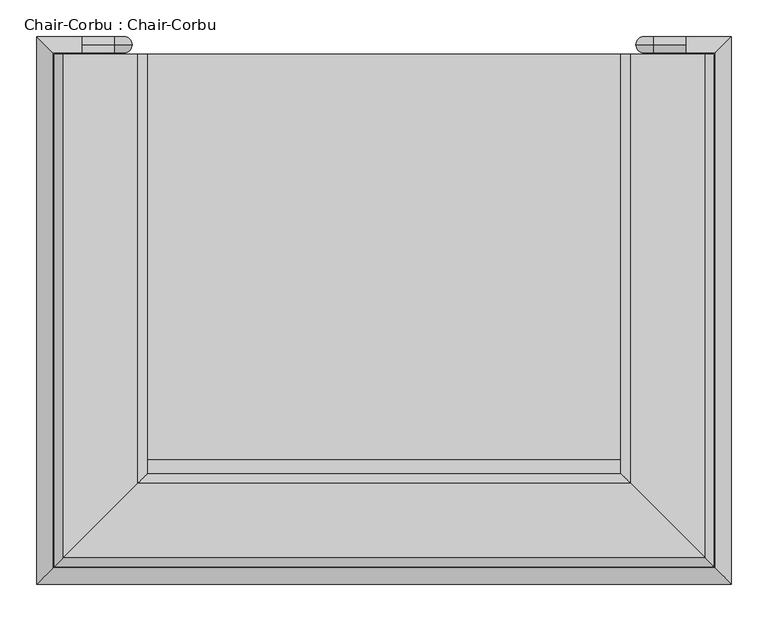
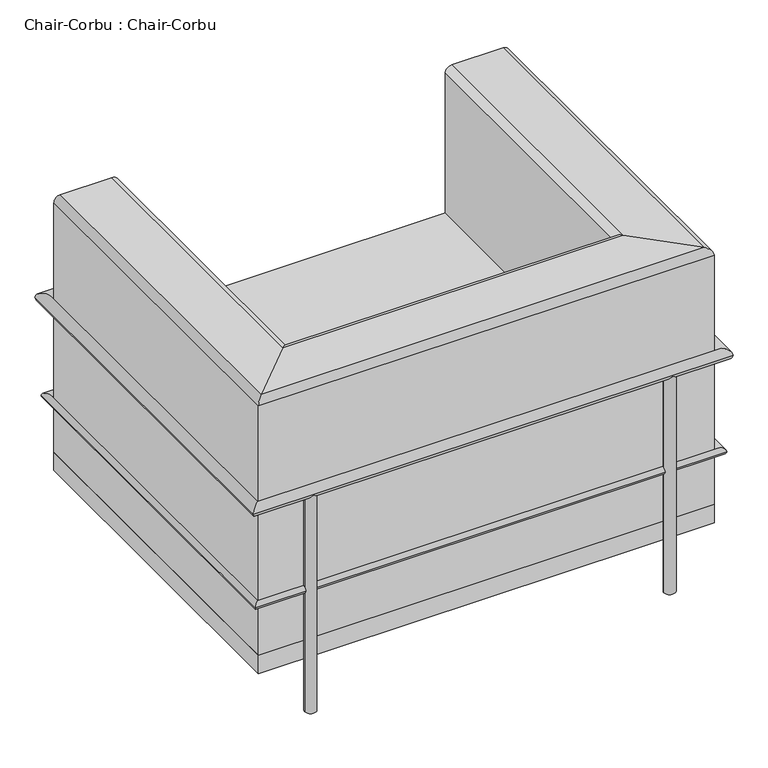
"""IFC4 building model written with IfcOpenShell, lengths in millimetres: furniture geometry, Chair-Corbu : Chair-Corbu."""

from ifc_helpers import new_model, si_unit, point, frame, frame_2d, origin, origin_with_axes, place, context, project, spatial, polyline, circle_curve, ellipse_curve, trimmed, segment, composite_curve, outline, extrude, source, transform, mapped, element, save
from ifc_brep_helpers import plane_surface, cylinder_surface, revolved_surface, advanced_brep


def chair_corbu_chair_corbu_44360336(model_context):
    return source(origin(), model_context, "Body", "SolidModel", [
        advanced_brep(
        [(123.3737705, -116.7770492, 139.7), (123.3737705, -116.7770492, 660.4), (136.0737705, -116.7770492, 673.1), (237.6737705, -116.7770492, 673.1), (250.3737705, -116.7770492, 660.4), (250.3737705, -116.7770492, 139.7), (250.3737705, -689.7770492, 139.7), (123.3737705, -816.7770492, 139.7), (250.3737705, -689.7770492, 660.4), (237.6737705, -702.4770492, 673.1), (136.0737705, -804.0770492, 673.1), (123.3737705, -816.7770492, 660.4), (896.3737705, -689.7770492, 139.7), (1023.3737705, -816.7770492, 139.7), (896.3737705, -689.7770492, 660.4), (909.0737705, -702.4770492, 673.1), (1010.6737705, -804.0770492, 673.1), (1023.3737705, -816.7770492, 660.4), (1023.3737705, -116.7770492, 139.7), (896.3737705, -116.7770492, 139.7), (896.3737705, -116.7770492, 660.4), (909.0737705, -116.7770492, 673.1), (1010.6737705, -116.7770492, 673.1), (1023.3737705, -116.7770492, 660.4)],
        [
            (0, 1),
            (1, 2, circle_curve(frame((136.0737705, -116.7770492, 660.4), z_axis=(0.0, 1.0, 0.0), x_axis=(-1.0, 0.0, 0.0)), 12.7)),
            (2, 3),
            (3, 4, circle_curve(frame((237.6737705, -116.7770492, 660.4), z_axis=(0.0, 1.0, 0.0), x_axis=(-1.0, 0.0, 0.0)), 12.7)),
            (4, 5),
            (5, 0),
            (5, 6),
            (6, 7),
            (7, 0),
            (4, 8),
            (8, 6),
            (3, 9),
            (9, 8, ellipse_curve(frame((237.6737705, -702.4770492, 660.4), z_axis=(-0.7071067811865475, 0.7071067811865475, 0.0), x_axis=(0.7071067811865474, 0.7071067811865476, 0.0)), 17.9605122, 12.7)),
            (2, 10),
            (10, 9),
            (1, 11),
            (11, 10, ellipse_curve(frame((136.0737705, -804.0770492, 660.4), z_axis=(-0.7071067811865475, 0.7071067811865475, 0.0), x_axis=(0.7071067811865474, 0.7071067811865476, 0.0)), 17.9605122, 12.7)),
            (7, 11),
            (6, 12),
            (12, 13),
            (13, 7),
            (8, 14),
            (14, 12),
            (9, 15),
            (15, 14, ellipse_curve(frame((909.0737705, -702.4770492, 660.4), z_axis=(-0.7071067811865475, -0.7071067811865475, 0.0), x_axis=(-0.7071067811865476, 0.7071067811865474, 0.0)), 17.9605122, 12.7)),
            (10, 16),
            (16, 15),
            (11, 17),
            (17, 16, ellipse_curve(frame((1010.6737705, -804.0770492, 660.4), z_axis=(-0.7071067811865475, -0.7071067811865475, 0.0), x_axis=(-0.7071067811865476, 0.7071067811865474, 0.0)), 17.9605122, 12.7)),
            (13, 17),
            (18, 19),
            (19, 20),
            (20, 21, circle_curve(frame((909.0737705, -116.7770492, 660.4), z_axis=(0.0, 1.0, 0.0), x_axis=(1.0, 0.0, 0.0)), 12.7)),
            (21, 22),
            (22, 23, circle_curve(frame((1010.6737705, -116.7770492, 660.4), z_axis=(0.0, 1.0, 0.0), x_axis=(1.0, 0.0, 0.0)), 12.7)),
            (23, 18),
            (12, 19),
            (18, 13),
            (14, 20),
            (15, 21),
            (16, 22),
            (17, 23),
        ],
        [
            plane_surface(frame((-559.3619763, -116.7770492, 0.0), z_axis=(0.0, 1.0, 0.0), x_axis=(0.0, 0.0, 1.0))),
            plane_surface(frame((123.3737705, -116.7770492, 139.7), z_axis=(0.0, 0.0, -1.0), x_axis=(0.0, -1.0, 0.0))),
            plane_surface(frame((250.3737705, -116.7770492, 139.7), z_axis=(1.0, 0.0, 0.0), x_axis=(0.0, -1.0, 0.0))),
            cylinder_surface(frame((237.6737705, -116.7770492, 660.4), z_axis=(0.0, 1.0, 0.0), x_axis=(-1.0, 0.0, 0.0)), 12.7),
            plane_surface(frame((237.6737705, -116.7770492, 673.1), z_axis=(0.0, 0.0, 1.0), x_axis=(0.0, -1.0, 0.0))),
            cylinder_surface(frame((136.0737705, -116.7770492, 660.4), z_axis=(0.0, 1.0, 0.0), x_axis=(-1.0, 0.0, 0.0)), 12.7),
            plane_surface(frame((123.3737705, -116.7770492, 660.4), z_axis=(-1.0, 0.0, 0.0), x_axis=(0.0, -1.0, 0.0))),
            plane_surface(frame((123.3737705, -816.7770492, 139.7), z_axis=(0.0, 0.0, -1.0), x_axis=(1.0, 0.0, 0.0))),
            plane_surface(frame((250.3737705, -689.7770492, 139.7), z_axis=(0.0, 1.0, 0.0), x_axis=(1.0, 0.0, 0.0))),
            cylinder_surface(frame((123.3737705, -702.4770492, 660.4), z_axis=(-1.0, 0.0, 0.0), x_axis=(0.0, -1.0, 0.0)), 12.7),
            plane_surface(frame((237.6737705, -702.4770492, 673.1), z_axis=(0.0, 0.0, 1.0), x_axis=(1.0, 0.0, 0.0))),
            cylinder_surface(frame((123.3737705, -804.0770492, 660.4), z_axis=(-1.0, 0.0, 0.0), x_axis=(0.0, -1.0, 0.0)), 12.7),
            plane_surface(frame((123.3737705, -816.7770492, 660.4), z_axis=(0.0, -1.0, 0.0), x_axis=(1.0, 0.0, 0.0))),
            plane_surface(frame((340.6380237, -116.7770492, 0.0), z_axis=(0.0, 1.0, 0.0), x_axis=(0.0, 0.0, -1.0))),
            plane_surface(frame((1023.3737705, -816.7770492, 139.7), z_axis=(0.0, 0.0, -1.0), x_axis=(0.0, 1.0, 0.0))),
            plane_surface(frame((896.3737705, -689.7770492, 139.7), z_axis=(-1.0, 0.0, 0.0), x_axis=(0.0, 1.0, 0.0))),
            cylinder_surface(frame((909.0737705, -816.7770492, 660.4), z_axis=(0.0, -1.0, 0.0), x_axis=(1.0, 0.0, 0.0)), 12.7),
            plane_surface(frame((909.0737705, -702.4770492, 673.1), z_axis=(0.0, 0.0, 1.0), x_axis=(0.0, 1.0, 0.0))),
            cylinder_surface(frame((1010.6737705, -816.7770492, 660.4), z_axis=(0.0, -1.0, 0.0), x_axis=(1.0, 0.0, 0.0)), 12.7),
            plane_surface(frame((1023.3737705, -816.7770492, 660.4), z_axis=(1.0, 0.0, 0.0), x_axis=(0.0, 1.0, 0.0))),
        ],
        [
            (0, [[1, 2, 3, 4, 5, 6]]),
            (1, [[7, 8, 9, -6]]),
            (2, [[10, 11, -7, -5]]),
            (3, [[12, 13, -10, -4]]),
            (4, [[14, 15, -12, -3]]),
            (5, [[16, 17, -14, -2]]),
            (6, [[-9, 18, -16, -1]]),
            (7, [[19, 20, 21, -8]]),
            (8, [[22, 23, -19, -11]]),
            (9, [[24, 25, -22, -13]]),
            (10, [[26, 27, -24, -15]]),
            (11, [[28, 29, -26, -17]]),
            (12, [[-21, 30, -28, -18]]),
            (13, [[31, 32, 33, 34, 35, 36]]),
            (14, [[37, -31, 38, -20]]),
            (15, [[39, -32, -37, -23]]),
            (16, [[40, -33, -39, -25]]),
            (17, [[41, -34, -40, -27]]),
            (18, [[42, -35, -41, -29]]),
            (19, [[-38, -36, -42, -30]]),
        ],
    ),
        advanced_brep(
        [(939.2362705, -104.0770492, 0.0), (917.0112705, -104.0770492, 0.0), (917.0112705, -104.0770492, 444.5), (939.2362705, -104.0770492, 444.5), (940.8237705, -104.0770492, 468.3125), (940.8237705, -104.0770492, 446.0875), (985.2737705, -104.0770492, 446.0875), (985.2737705, -104.0770492, 468.3125)],
        [
            (0, 1, circle_curve(frame((928.1237705, -104.0770492, 0.0), z_axis=(0.0, 0.0, -1.0), x_axis=(-1.0, 0.0, 0.0)), 11.1125)),
            (1, 0, circle_curve(frame((928.1237705, -104.0770492, 0.0), z_axis=(0.0, 0.0, -1.0), x_axis=(-1.0, 0.0, 0.0)), 11.1125)),
            (1, 2),
            (2, 3, circle_curve(frame((928.1237705, -104.0770492, 444.5), z_axis=(0.0, 0.0, -1.0), x_axis=(-1.0, 0.0, 0.0)), 11.1125)),
            (3, 0),
            (3, 2, circle_curve(frame((928.1237705, -104.0770492, 444.5), z_axis=(0.0, 0.0, -1.0), x_axis=(-1.0, 0.0, 0.0)), 11.1125)),
            (4, 5, circle_curve(frame((940.8237705, -104.0770492, 457.2), z_axis=(-1.0, 0.0, 0.0), x_axis=(0.0, 0.0, 1.0)), 11.1125)),
            (5, 3, circle_curve(frame((940.8237705, -104.0770492, 444.5), z_axis=(0.0, -1.0, 0.0), x_axis=(-1.0, 0.0, 0.0)), 1.5875)),
            (2, 4, circle_curve(frame((940.8237705, -104.0770492, 444.5), z_axis=(0.0, 1.0, 0.0), x_axis=(-1.0, 0.0, 0.0)), 23.8125)),
            (5, 4, circle_curve(frame((940.8237705, -104.0770492, 457.2), z_axis=(-1.0, 0.0, 0.0), x_axis=(0.0, 0.0, 1.0)), 11.1125)),
            (6, 7, circle_curve(frame((985.2737705, -104.0770492, 457.2), z_axis=(1.0, 0.0, 0.0), x_axis=(0.0, 0.0, 1.0)), 11.1125)),
            (7, 6, circle_curve(frame((985.2737705, -104.0770492, 457.2), z_axis=(1.0, 0.0, 0.0), x_axis=(0.0, 0.0, 1.0)), 11.1125)),
            (4, 7),
            (6, 5),
        ],
        [
            plane_surface(frame((928.1237705, -93.9333275, 0.0), z_axis=(0.0, 0.0, -1.0), x_axis=(1.0, 0.0, 0.0))),
            cylinder_surface(frame((928.1237705, -104.0770492, 0.0), z_axis=(0.0, 0.0, -1.0), x_axis=(-1.0, 0.0, 0.0)), 11.1125),
            revolved_surface(trimmed(ellipse_curve(frame((928.1237705, -104.0770492, 444.5), z_axis=(0.0, 0.0, 1.0), x_axis=(-1.0, 0.0, 0.0)), 11.1125, 11.1125), [point((939.2362705, -104.0770492, 444.5))], [point((917.0112705, -104.0770492, 444.5))], True, "CARTESIAN"), (940.8237705, -123.8770492, 444.5), (0.0, -1.0, 0.0)),
            revolved_surface(trimmed(ellipse_curve(frame((928.1237705, -104.0770492, 444.5), z_axis=(0.0, 0.0, 1.0), x_axis=(-1.0, 0.0, 0.0)), 11.1125, 11.1125), [point((917.0112705, -104.0770492, 444.5))], [point((939.2362705, -104.0770492, 444.5))], True, "CARTESIAN"), (940.8237705, -123.8770492, 444.5), (0.0, -1.0, 0.0)),
            plane_surface(frame((985.2737705, -123.8770492, 427.2562784), z_axis=(1.0, 0.0, 0.0), x_axis=(0.0, -1.0, 0.0))),
            cylinder_surface(frame((940.8237705, -104.0770492, 457.2), z_axis=(-1.0, 0.0, 0.0), x_axis=(0.0, 0.0, 1.0)), 11.1125),
        ],
        [
            (0, [[1, 2]]),
            (1, [[3, 4, 5, -2]]),
            (1, [[-5, 6, -3, -1]]),
            (2, [[7, 8, -4, 9]]),
            (3, [[10, -9, -6, -8]]),
            (4, [[11, 12]]),
            (5, [[13, -11, 14, -7]]),
            (5, [[-14, -12, -13, -10]]),
        ],
    ),
        advanced_brep(
        [(229.7362705, -104.0770492, 0.0), (207.5112705, -104.0770492, 0.0), (207.5112705, -104.0770492, 444.5), (229.7362705, -104.0770492, 444.5), (205.9237705, -104.0770492, 446.0875), (205.9237705, -104.0770492, 468.3125), (161.4737705, -104.0770492, 468.3125), (161.4737705, -104.0770492, 446.0875)],
        [
            (0, 1, circle_curve(frame((218.6237705, -104.0770492, 0.0), z_axis=(0.0, 0.0, -1.0), x_axis=(-1.0, 0.0, 0.0)), 11.1125)),
            (1, 0, circle_curve(frame((218.6237705, -104.0770492, 0.0), z_axis=(0.0, 0.0, -1.0), x_axis=(-1.0, 0.0, 0.0)), 11.1125)),
            (1, 2),
            (2, 3, circle_curve(frame((218.6237705, -104.0770492, 444.5), z_axis=(0.0, 0.0, -1.0), x_axis=(-1.0, 0.0, 0.0)), 11.1125)),
            (3, 0),
            (3, 2, circle_curve(frame((218.6237705, -104.0770492, 444.5), z_axis=(0.0, 0.0, -1.0), x_axis=(-1.0, 0.0, 0.0)), 11.1125)),
            (4, 5, circle_curve(frame((205.9237705, -104.0770492, 457.2), z_axis=(1.0, 0.0, 0.0), x_axis=(0.0, 0.0, -1.0)), 11.1125)),
            (5, 3, circle_curve(frame((205.9237705, -104.0770492, 444.5), z_axis=(0.0, 1.0, 0.0), x_axis=(1.0, 0.0, 0.0)), 23.8125)),
            (2, 4, circle_curve(frame((205.9237705, -104.0770492, 444.5), z_axis=(0.0, -1.0, 0.0), x_axis=(1.0, 0.0, 0.0)), 1.5875)),
            (5, 4, circle_curve(frame((205.9237705, -104.0770492, 457.2), z_axis=(1.0, 0.0, 0.0), x_axis=(0.0, 0.0, -1.0)), 11.1125)),
            (6, 7, circle_curve(frame((161.4737705, -104.0770492, 457.2), z_axis=(-1.0, 0.0, 0.0), x_axis=(0.0, 0.0, -1.0)), 11.1125)),
            (7, 6, circle_curve(frame((161.4737705, -104.0770492, 457.2), z_axis=(-1.0, 0.0, 0.0), x_axis=(0.0, 0.0, -1.0)), 11.1125)),
            (4, 7),
            (6, 5),
        ],
        [
            plane_surface(frame((218.6237705, -93.9333275, 0.0), z_axis=(0.0, 0.0, -1.0), x_axis=(1.0, 0.0, 0.0))),
            cylinder_surface(frame((218.6237705, -104.0770492, 0.0), z_axis=(0.0, 0.0, -1.0), x_axis=(-1.0, 0.0, 0.0)), 11.1125),
            revolved_surface(trimmed(ellipse_curve(frame((218.6237705, -104.0770492, 444.5), z_axis=(0.0, 0.0, 1.0), x_axis=(-1.0, 0.0, 0.0)), 11.1125, 11.1125), [point((229.7362705, -104.0770492, 444.5))], [point((207.5112705, -104.0770492, 444.5))], True, "CARTESIAN"), (205.9237705, -123.8770492, 444.5), (0.0, 1.0, 0.0)),
            revolved_surface(trimmed(ellipse_curve(frame((218.6237705, -104.0770492, 444.5), z_axis=(0.0, 0.0, 1.0), x_axis=(-1.0, 0.0, 0.0)), 11.1125, 11.1125), [point((207.5112705, -104.0770492, 444.5))], [point((229.7362705, -104.0770492, 444.5))], True, "CARTESIAN"), (205.9237705, -123.8770492, 444.5), (0.0, 1.0, 0.0)),
            plane_surface(frame((161.4737705, -123.8770492, 427.2562784), z_axis=(-1.0, 0.0, 0.0), x_axis=(0.0, 1.0, 0.0))),
            cylinder_surface(frame((205.9237705, -104.0770492, 457.2), z_axis=(1.0, 0.0, 0.0), x_axis=(0.0, 0.0, -1.0)), 11.1125),
        ],
        [
            (0, [[1, 2]]),
            (1, [[3, 4, 5, -2]]),
            (1, [[-5, 6, -3, -1]]),
            (2, [[7, 8, -4, 9]]),
            (3, [[10, -9, -6, -8]]),
            (4, [[11, 12]]),
            (5, [[13, -11, 14, -7]]),
            (5, [[-14, -12, -13, -10]]),
        ],
    ),
        advanced_brep(
        [(209.0987705, -113.6020492, 254.0), (209.0987705, -100.9020492, 254.0), (107.4987705, -100.9020492, 254.0), (120.1987705, -113.6020492, 254.0), (107.4987705, -832.6520492, 254.0), (120.1987705, -819.9520492, 254.0), (1039.2487705, -832.6520492, 254.0), (1026.5487705, -819.9520492, 254.0), (1039.2487705, -100.9020492, 254.0), (1026.5487705, -113.6020492, 254.0), (937.6487705, -113.6020492, 254.0), (937.6487705, -100.9020492, 254.0)],
        [
            (0, 1, circle_curve(frame((209.0987705, -107.2520492, 254.0), z_axis=(1.0, 0.0, 0.0), x_axis=(0.0, 1.0, 0.0)), 6.35)),
            (1, 0, circle_curve(frame((209.0987705, -107.2520492, 254.0), z_axis=(1.0, 0.0, 0.0), x_axis=(0.0, 1.0, 0.0)), 6.35)),
            (1, 2),
            (2, 3, ellipse_curve(frame((113.8487705, -107.2520492, 254.0), z_axis=(0.7071067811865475, 0.7071067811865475, 0.0), x_axis=(0.7071067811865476, -0.7071067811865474, 0.0)), 8.9802561, 6.35)),
            (3, 0),
            (3, 2, ellipse_curve(frame((113.8487705, -107.2520492, 254.0), z_axis=(0.7071067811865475, 0.7071067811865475, 0.0), x_axis=(0.7071067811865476, -0.7071067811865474, 0.0)), 8.9802561, 6.35)),
            (2, 4),
            (4, 5, ellipse_curve(frame((113.8487705, -826.3020492, 254.0), z_axis=(-0.7071067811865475, 0.7071067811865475, 0.0), x_axis=(0.7071067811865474, 0.7071067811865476, 0.0)), 8.9802561, 6.35)),
            (5, 3),
            (5, 4, ellipse_curve(frame((113.8487705, -826.3020492, 254.0), z_axis=(-0.7071067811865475, 0.7071067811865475, 0.0), x_axis=(0.7071067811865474, 0.7071067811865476, 0.0)), 8.9802561, 6.35)),
            (4, 6),
            (6, 7, ellipse_curve(frame((1032.8987705, -826.3020492, 254.0), z_axis=(-0.7071067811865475, -0.7071067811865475, 0.0), x_axis=(-0.7071067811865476, 0.7071067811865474, 0.0)), 8.9802561, 6.35)),
            (7, 5),
            (7, 6, ellipse_curve(frame((1032.8987705, -826.3020492, 254.0), z_axis=(-0.7071067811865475, -0.7071067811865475, 0.0), x_axis=(-0.7071067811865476, 0.7071067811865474, 0.0)), 8.9802561, 6.35)),
            (6, 8),
            (8, 9, ellipse_curve(frame((1032.8987705, -107.2520492, 254.0), z_axis=(0.7071067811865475, -0.7071067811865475, 0.0), x_axis=(-0.7071067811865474, -0.7071067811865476, 0.0)), 8.9802561, 6.35)),
            (9, 7),
            (9, 8, ellipse_curve(frame((1032.8987705, -107.2520492, 254.0), z_axis=(0.7071067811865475, -0.7071067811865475, 0.0), x_axis=(-0.7071067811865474, -0.7071067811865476, 0.0)), 8.9802561, 6.35)),
            (10, 11, circle_curve(frame((937.6487705, -107.2520492, 254.0), z_axis=(-1.0, 0.0, 0.0), x_axis=(0.0, 1.0, 0.0)), 6.35)),
            (11, 10, circle_curve(frame((937.6487705, -107.2520492, 254.0), z_axis=(-1.0, 0.0, 0.0), x_axis=(0.0, 1.0, 0.0)), 6.35)),
            (8, 11),
            (10, 9),
        ],
        [
            plane_surface(frame((209.0987705, -107.2520492, -259.5186838), z_axis=(1.0, 0.0, 0.0), x_axis=(0.0, 1.0, 0.0))),
            cylinder_surface(frame((209.0987705, -107.2520492, 254.0), z_axis=(1.0, 0.0, 0.0), x_axis=(0.0, 1.0, 0.0)), 6.35),
            cylinder_surface(frame((113.8487705, -107.2520492, 254.0), z_axis=(0.0, 1.0, 0.0), x_axis=(-1.0, 0.0, 0.0)), 6.35),
            cylinder_surface(frame((113.8487705, -826.3020492, 254.0), z_axis=(-1.0, 0.0, 0.0), x_axis=(0.0, -1.0, 0.0)), 6.35),
            cylinder_surface(frame((1032.8987705, -826.3020492, 254.0), z_axis=(0.0, -1.0, 0.0), x_axis=(1.0, 0.0, 0.0)), 6.35),
            plane_surface(frame((937.6487705, -107.2520492, -259.5186838), z_axis=(-1.0, 0.0, 0.0), x_axis=(0.0, 1.0, 0.0))),
            cylinder_surface(frame((1032.8987705, -107.2520492, 254.0), z_axis=(1.0, 0.0, 0.0), x_axis=(0.0, 1.0, 0.0)), 6.35),
        ],
        [
            (0, [[1, 2]]),
            (1, [[3, 4, 5, -2]]),
            (1, [[-5, 6, -3, -1]]),
            (2, [[7, 8, 9, -4]]),
            (2, [[-9, 10, -7, -6]]),
            (3, [[11, 12, 13, -8]]),
            (3, [[-13, 14, -11, -10]]),
            (4, [[15, 16, 17, -12]]),
            (4, [[-17, 18, -15, -14]]),
            (5, [[19, 20]]),
            (6, [[21, -19, 22, -16]]),
            (6, [[-22, -20, -21, -18]]),
        ],
    ),
        advanced_brep(
        [(161.4737705, -115.1895492, 457.2), (161.4737705, -92.9645492, 457.2), (99.5612705, -92.9645492, 457.2), (121.7862705, -115.1895492, 457.2), (99.5612705, -840.5895492, 457.2), (121.7862705, -818.3645492, 457.2), (1047.1862705, -840.5895492, 457.2), (1024.9612705, -818.3645492, 457.2), (1047.1862705, -92.9645492, 457.2), (1024.9612705, -115.1895492, 457.2), (985.2737705, -115.1895492, 457.2), (985.2737705, -92.9645492, 457.2)],
        [
            (0, 1, circle_curve(frame((161.4737705, -104.0770492, 457.2), z_axis=(1.0, 0.0, 0.0), x_axis=(0.0, 1.0, 0.0)), 11.1125)),
            (1, 0, circle_curve(frame((161.4737705, -104.0770492, 457.2), z_axis=(1.0, 0.0, 0.0), x_axis=(0.0, 1.0, 0.0)), 11.1125)),
            (1, 2),
            (2, 3, ellipse_curve(frame((110.6737705, -104.0770492, 457.2), z_axis=(0.7071067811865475, 0.7071067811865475, 0.0), x_axis=(0.7071067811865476, -0.7071067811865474, 0.0)), 15.7154482, 11.1125)),
            (3, 0),
            (3, 2, ellipse_curve(frame((110.6737705, -104.0770492, 457.2), z_axis=(0.7071067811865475, 0.7071067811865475, 0.0), x_axis=(0.7071067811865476, -0.7071067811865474, 0.0)), 15.7154482, 11.1125)),
            (2, 4),
            (4, 5, ellipse_curve(frame((110.6737705, -829.4770492, 457.2), z_axis=(-0.7071067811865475, 0.7071067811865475, 0.0), x_axis=(0.7071067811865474, 0.7071067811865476, 0.0)), 15.7154482, 11.1125)),
            (5, 3),
            (5, 4, ellipse_curve(frame((110.6737705, -829.4770492, 457.2), z_axis=(-0.7071067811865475, 0.7071067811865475, 0.0), x_axis=(0.7071067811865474, 0.7071067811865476, 0.0)), 15.7154482, 11.1125)),
            (4, 6),
            (6, 7, ellipse_curve(frame((1036.0737705, -829.4770492, 457.2), z_axis=(-0.7071067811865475, -0.7071067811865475, 0.0), x_axis=(-0.7071067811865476, 0.7071067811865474, 0.0)), 15.7154482, 11.1125)),
            (7, 5),
            (7, 6, ellipse_curve(frame((1036.0737705, -829.4770492, 457.2), z_axis=(-0.7071067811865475, -0.7071067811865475, 0.0), x_axis=(-0.7071067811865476, 0.7071067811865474, 0.0)), 15.7154482, 11.1125)),
            (6, 8),
            (8, 9, ellipse_curve(frame((1036.0737705, -104.0770492, 457.2), z_axis=(0.7071067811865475, -0.7071067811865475, 0.0), x_axis=(-0.7071067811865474, -0.7071067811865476, 0.0)), 15.7154482, 11.1125)),
            (9, 7),
            (9, 8, ellipse_curve(frame((1036.0737705, -104.0770492, 457.2), z_axis=(0.7071067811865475, -0.7071067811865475, 0.0), x_axis=(-0.7071067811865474, -0.7071067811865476, 0.0)), 15.7154482, 11.1125)),
            (10, 11, circle_curve(frame((985.2737705, -104.0770492, 457.2), z_axis=(-1.0, 0.0, 0.0), x_axis=(0.0, 1.0, 0.0)), 11.1125)),
            (11, 10, circle_curve(frame((985.2737705, -104.0770492, 457.2), z_axis=(-1.0, 0.0, 0.0), x_axis=(0.0, 1.0, 0.0)), 11.1125)),
            (8, 11),
            (10, 9),
        ],
        [
            plane_surface(frame((161.4737705, -104.0770492, -466.8567721), z_axis=(1.0, 0.0, 0.0), x_axis=(0.0, 1.0, 0.0))),
            cylinder_surface(frame((161.4737705, -104.0770492, 457.2), z_axis=(1.0, 0.0, 0.0), x_axis=(0.0, 1.0, 0.0)), 11.1125),
            cylinder_surface(frame((110.6737705, -104.0770492, 457.2), z_axis=(0.0, 1.0, 0.0), x_axis=(-1.0, 0.0, 0.0)), 11.1125),
            cylinder_surface(frame((110.6737705, -829.4770492, 457.2), z_axis=(-1.0, 0.0, 0.0), x_axis=(0.0, -1.0, 0.0)), 11.1125),
            cylinder_surface(frame((1036.0737705, -829.4770492, 457.2), z_axis=(0.0, -1.0, 0.0), x_axis=(1.0, 0.0, 0.0)), 11.1125),
            plane_surface(frame((985.2737705, -104.0770492, -466.8567721), z_axis=(-1.0, 0.0, 0.0), x_axis=(0.0, 1.0, 0.0))),
            cylinder_surface(frame((1036.0737705, -104.0770492, 457.2), z_axis=(1.0, 0.0, 0.0), x_axis=(0.0, 1.0, 0.0)), 11.1125),
        ],
        [
            (0, [[1, 2]]),
            (1, [[3, 4, 5, -2]]),
            (1, [[-5, 6, -3, -1]]),
            (2, [[7, 8, 9, -4]]),
            (2, [[-9, 10, -7, -6]]),
            (3, [[11, 12, 13, -8]]),
            (3, [[-13, 14, -11, -10]]),
            (4, [[15, 16, 17, -12]]),
            (4, [[-17, 18, -15, -14]]),
            (5, [[19, 20]]),
            (6, [[21, -19, 22, -16]]),
            (6, [[-22, -20, -21, -18]]),
        ],
    ),
        extrude(outline(polyline([(903.5737705, -669.9770492), (243.1737705, -669.9770492), (243.1737705, -116.7770492), (903.5737705, -116.7770492), (903.5737705, -669.9770492)])), frame((0.0, 0.0, 139.7), z_axis=(0.0, 0.0, 1.0), x_axis=(1.0, 0.0, 0.0)), (0.0, 0.0, 1.0), 228.6),
        extrude(outline(polyline([(1023.3737705, -816.7770492), (123.3737705, -816.7770492), (123.3737705, -116.7770492), (1023.3737705, -116.7770492), (1023.3737705, -816.7770492)])), frame((0.0, 0.0, 101.6), z_axis=(0.0, 0.0, 1.0), x_axis=(1.0, 0.0, 0.0)), (0.0, 0.0, 1.0), 38.1),
        extrude(outline(composite_curve([segment(trimmed(circle_curve(frame_2d((218.6237705, -829.4770492)), 11.1125), [point((207.5112705, -829.4770492))], [point((229.7362705, -829.4770492))], False, "CARTESIAN"), True, "CONTINUOUS"), segment(trimmed(circle_curve(frame_2d((218.6237705, -829.4770492)), 11.1125), [point((229.7362705, -829.4770492))], [point((207.5112705, -829.4770492))], False, "CARTESIAN"), True, "CONTINUOUS")], self_intersect=False)), origin_with_axes(), (0.0, 0.0, 1.0), 457.2),
        extrude(outline(composite_curve([segment(trimmed(circle_curve(frame_2d((928.1237705, -829.4770492)), 11.1125), [point((939.2362705, -829.4770492))], [point((917.0112705, -829.4770492))], False, "CARTESIAN"), True, "CONTINUOUS"), segment(trimmed(circle_curve(frame_2d((928.1237705, -829.4770492)), 11.1125), [point((917.0112705, -829.4770492))], [point((939.2362705, -829.4770492))], False, "CARTESIAN"), True, "CONTINUOUS")], self_intersect=False)), origin_with_axes(), (0.0, 0.0, 1.0), 457.2),
    ])


if __name__ == "__main__":
    model = new_model("IFC4")
    model_context = context("Model", 3, world=origin())
    ifc_project = project(units=[si_unit("LENGTHUNIT", "METRE", prefix="MILLI")], contexts=[model_context])
    site = spatial("IfcSite", under=ifc_project)
    building = spatial("IfcBuilding", under=site)
    placement = place(None, origin())
    chair_corbu_chair_corbu_shape = chair_corbu_chair_corbu_44360336(model_context)
    element("IfcFurniture", 1, ObjectType="Chair-Corbu : Chair-Corbu", at=placement, inside=building, context=model_context, shape_type="MappedRepresentation", body=[
        mapped(chair_corbu_chair_corbu_shape, transform((0.0, 0.0, 0.0), x_axis=(1.0, 0.0, 0.0), y_axis=(0.0, 1.0, 0.0), z_axis=(0.0, 0.0, 1.0))),
    ])
    save(model, "model.ifc")
